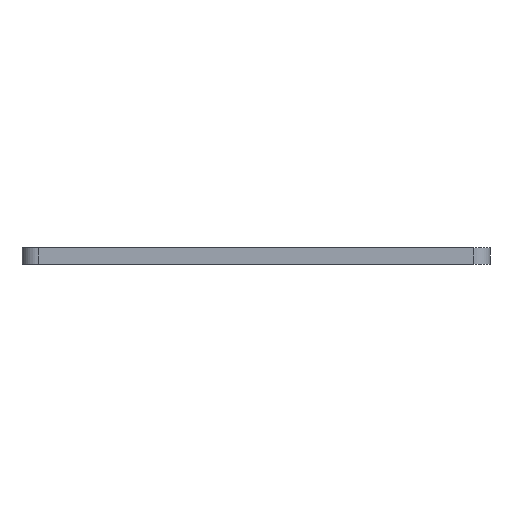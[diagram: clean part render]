
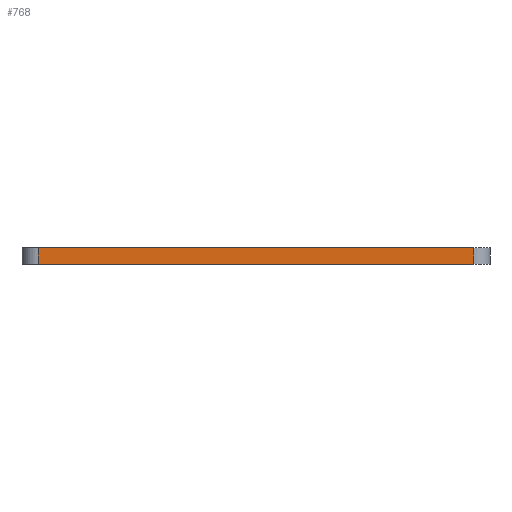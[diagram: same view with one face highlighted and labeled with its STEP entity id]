
A CAD part, front view. The second image highlights one B-rep face of the part: STEP entity #768.
In plain terms, the highlighted planar face has unit normal (0, -1, 0).
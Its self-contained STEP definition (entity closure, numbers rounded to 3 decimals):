
#2 = LINE ( 'NONE', #621, #153 ) ;
#33 = VERTEX_POINT ( 'NONE', #723 ) ;
#54 = DIRECTION ( 'NONE',  ( 0., 1., 0. ) ) ;
#64 = EDGE_LOOP ( 'NONE', ( #245, #172, #780, #670 ) ) ;
#91 = CARTESIAN_POINT ( 'NONE',  ( 33.096, -8.784, 2. ) ) ;
#94 = CARTESIAN_POINT ( 'NONE',  ( -20.904, -8.784, 2. ) ) ;
#107 = DIRECTION ( 'NONE',  ( 1., 0., 0. ) ) ;
#153 = VECTOR ( 'NONE', #826, 1000. ) ;
#172 = ORIENTED_EDGE ( 'NONE', *, *, #449, .T. ) ;
#194 = CARTESIAN_POINT ( 'NONE',  ( -20.904, -8.784, 0. ) ) ;
#245 = ORIENTED_EDGE ( 'NONE', *, *, #296, .F. ) ;
#259 = LINE ( 'NONE', #91, #279 ) ;
#272 = VECTOR ( 'NONE', #107, 1000. ) ;
#279 = VECTOR ( 'NONE', #485, 1000. ) ;
#296 = EDGE_CURVE ( 'NONE', #843, #540, #774, .T. ) ;
#331 = VERTEX_POINT ( 'NONE', #194 ) ;
#358 = LINE ( 'NONE', #94, #706 ) ;
#392 = PLANE ( 'NONE',  #418 ) ;
#418 = AXIS2_PLACEMENT_3D ( 'NONE', #456, #54, #524 ) ;
#449 = EDGE_CURVE ( 'NONE', #843, #331, #358, .T. ) ;
#456 = CARTESIAN_POINT ( 'NONE',  ( -22.904, -8.784, 2. ) ) ;
#483 = FACE_OUTER_BOUND ( 'NONE', #64, .T. ) ;
#485 = DIRECTION ( 'NONE',  ( 0., 0., 1. ) ) ;
#490 = DIRECTION ( 'NONE',  ( 0., 0., -1. ) ) ;
#492 = EDGE_CURVE ( 'NONE', #331, #33, #2, .T. ) ;
#524 = DIRECTION ( 'NONE',  ( 0., 0., 1. ) ) ;
#540 = VERTEX_POINT ( 'NONE', #654 ) ;
#582 = EDGE_CURVE ( 'NONE', #33, #540, #259, .T. ) ;
#621 = CARTESIAN_POINT ( 'NONE',  ( -22.904, -8.784, 0. ) ) ;
#654 = CARTESIAN_POINT ( 'NONE',  ( 33.096, -8.784, 2. ) ) ;
#660 = CARTESIAN_POINT ( 'NONE',  ( -20.904, -8.784, 2. ) ) ;
#670 = ORIENTED_EDGE ( 'NONE', *, *, #582, .T. ) ;
#706 = VECTOR ( 'NONE', #490, 1000. ) ;
#723 = CARTESIAN_POINT ( 'NONE',  ( 33.096, -8.784, 0. ) ) ;
#768 = ADVANCED_FACE ( 'NONE', ( #483 ), #392, .F. ) ;
#774 = LINE ( 'NONE', #835, #272 ) ;
#780 = ORIENTED_EDGE ( 'NONE', *, *, #492, .T. ) ;
#826 = DIRECTION ( 'NONE',  ( 1., 0., 0. ) ) ;
#835 = CARTESIAN_POINT ( 'NONE',  ( -22.904, -8.784, 2. ) ) ;
#843 = VERTEX_POINT ( 'NONE', #660 ) ;
